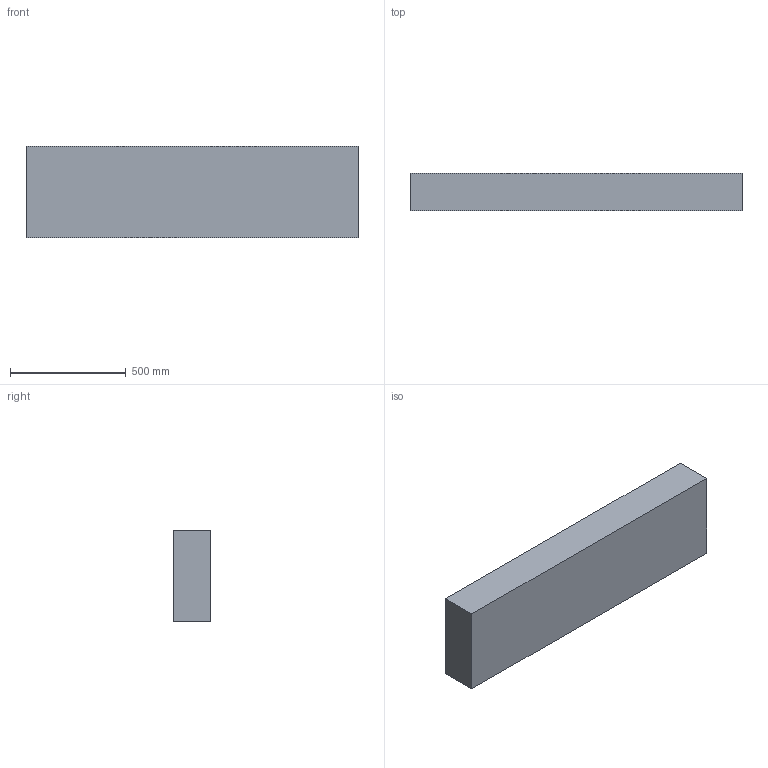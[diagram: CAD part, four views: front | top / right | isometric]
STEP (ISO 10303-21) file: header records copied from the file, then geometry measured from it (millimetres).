
FILE_DESCRIPTION (( 'STEP AP214' ), '1' );
FILE_NAME ('1755-931B-PID.STEP', '2022-11-13T17:20:54', ( '' ), ( '' ), 'SwSTEP 2.0', 'SolidWorks 2021', '' );
FILE_SCHEMA (( 'AUTOMOTIVE_DESIGN' ));
Length unit declared in the file: inch
Products named in the file (1): 1755-931B-PID
Bounding box: 1433.19 x 161.16 x 395.74 mm (x, y, z)
Volume: 20823417.1 mm3; surface area: 2170470.7 mm2
Topology: 1 solids, 1 shells, 728 faces, 1699 edges, 1000 vertices
Faces by surface type: bspline 247, cylinder 233, plane 104, torus 92, sphere 52
Entity records: 52211 total; most frequent: CARTESIAN_POINT 37372, ORIENTED_EDGE 3390, DIRECTION 2696, EDGE_CURVE 1695, AXIS2_PLACEMENT_3D 1055, VERTEX_POINT 1000, EDGE_LOOP 759, ADVANCED_FACE 728
